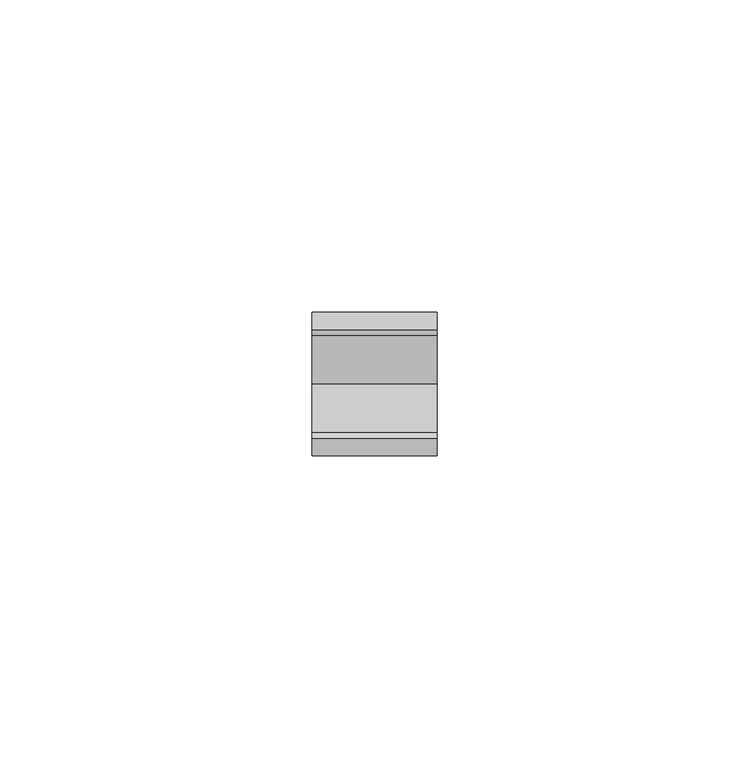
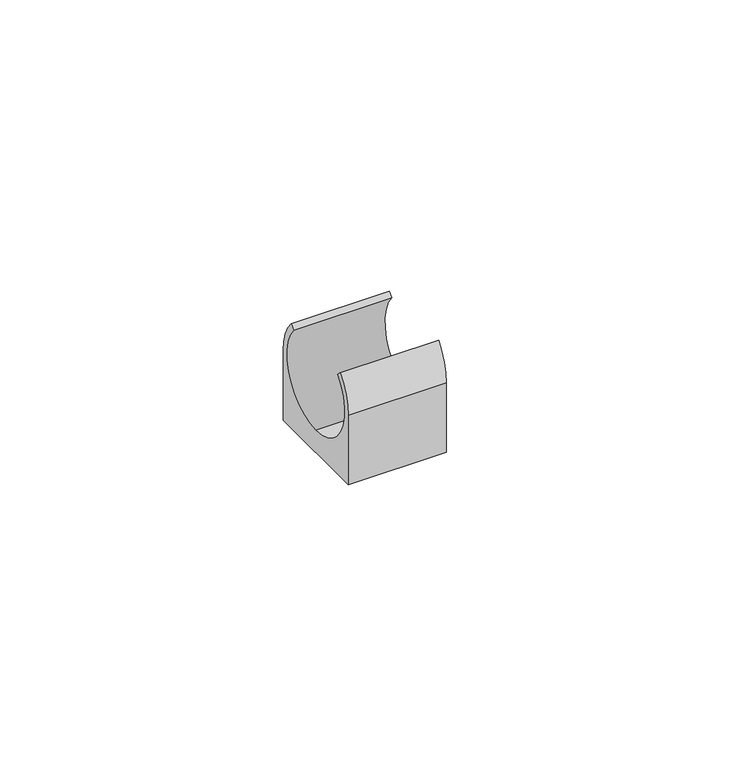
"""IFC4 building model written with IfcOpenShell, lengths in millimetres: cable carrier fitting geometry."""

import ifcopenshell
import ifcopenshell.guid

model = None  # the IFC model being written
_history = None  # IfcOwnerHistory: only IFC2X3 demands one
_inside = {}  # id of a spatial element -> (the spatial element, [elements in it])
_under = {}  # id of a project, library or spatial element -> (it, [spatial elements below it])
_declared = {}  # id of a project -> (the project, [libraries it declares])
_typed = {}  # id of a type object -> (the type object, [elements of that type])
_made_of = {}  # id of a material, layer set ... -> (it, [elements and type objects made of it])


def new_model(schema):
    """Start an empty IFC model of exactly this schema.

    Asked for "IFC4X3", IfcOpenShell would pick the latest addendum, in which some entities
    have other attributes; the version numbers below select the first issue.
    IFC2X3 requires an IfcOwnerHistory on every rooted entity: one is made here for all.
    """
    global model, _history
    if schema == "IFC4X3":
        model = ifcopenshell.file(schema_version=(4, 3, 0, 0))
    else:
        model = ifcopenshell.file(schema=schema)
    _inside.clear()
    _under.clear()
    _declared.clear()
    _typed.clear()
    _made_of.clear()
    _history = None
    if model.schema == "IFC2X3":
        org = make("IfcOrganization", Name="unknown")
        user = make(
            "IfcPersonAndOrganization",
            ThePerson=make("IfcPerson", FamilyName="unknown"),
            TheOrganization=org,
        )
        app = make(
            "IfcApplication",
            ApplicationDeveloper=org,
            Version="unknown",
            ApplicationFullName="unknown",
            ApplicationIdentifier="unknown",
        )
        _history = make(
            "IfcOwnerHistory",
            OwningUser=user,
            OwningApplication=app,
            ChangeAction="ADDED",
            CreationDate=0,
        )
    return model


def make(cls, **values):
    """One entity of the class cls with the attributes given. An attribute that is None is left unset."""
    return model.create_entity(
        cls, **{name: value for name, value in values.items() if value is not None}
    )


def rooted(cls, **values):
    """An entity with a GlobalId (a new one), such as an element, a storey or a relation."""
    return make(cls, GlobalId=ifcopenshell.guid.new(), OwnerHistory=_history, **values)


def si_unit(unit_type, name, prefix=None):
    """IfcSIUnit, for example si_unit("LENGTHUNIT", "METRE", prefix="MILLI")."""
    return make("IfcSIUnit", UnitType=unit_type, Prefix=prefix, Name=name)


def assignment(units):
    """IfcUnitAssignment: the units of a project."""
    return None if units is None else make("IfcUnitAssignment", Units=units)


def point(xyz):
    """IfcCartesianPoint."""
    return None if xyz is None else make("IfcCartesianPoint", Coordinates=xyz)


def direction(xyz):
    """IfcDirection."""
    return None if xyz is None else make("IfcDirection", DirectionRatios=xyz)


def frame(location, z_axis=None, x_axis=None):
    """IfcAxis2Placement3D, a coordinate frame: its origin and axes. An axis left out is left unset."""
    return make(
        "IfcAxis2Placement3D",
        Location=point(location),
        Axis=direction(z_axis),
        RefDirection=direction(x_axis),
    )


def frame_2d(location, x_axis=None):
    """IfcAxis2Placement2D, a coordinate frame in the plane: its origin and x axis."""
    return make(
        "IfcAxis2Placement2D", Location=point(location), RefDirection=direction(x_axis)
    )


def origin():
    """The frame at (0, 0, 0) with its axes left unset."""
    return frame((0.0, 0.0, 0.0))


def origin_2d():
    """The frame at (0, 0) in the plane with its x axis left unset."""
    return frame_2d((0.0, 0.0))


def place(relative_to, where):
    """IfcLocalPlacement: puts the frame where relative to a parent placement (None: the world)."""
    return make(
        "IfcLocalPlacement", PlacementRelTo=relative_to, RelativePlacement=where
    )


def context(
    kind, dimensions, precision=None, world=None, true_north=None, identifier=None
):
    """IfcGeometricRepresentationContext, for example the 3D "Model" context."""
    return make(
        "IfcGeometricRepresentationContext",
        ContextIdentifier=identifier,
        ContextType=kind,
        CoordinateSpaceDimension=dimensions,
        Precision=precision,
        WorldCoordinateSystem=world,
        TrueNorth=true_north,
    )


def project(units=None, contexts=None):
    """IfcProject with its units and contexts."""
    return rooted(
        "IfcProject",
        Name="project",
        RepresentationContexts=contexts,
        UnitsInContext=assignment(units),
    )


def spatial(cls, under=None, at=None, **own):
    """A site, building, storey or space (cls), placed at a placement, below another one or the project."""
    s = rooted(cls, ObjectPlacement=at, **own)
    if under is not None:
        _under.setdefault(under.id(), (under, []))[1].append(s)
    return s


def polyline(points):
    """IfcPolyline through the points."""
    return make("IfcPolyline", Points=[point(p) for p in points])


def circle_curve(where, radius):
    """IfcCircle in the frame where."""
    return make("IfcCircle", Position=where, Radius=radius)


def trimmed(basis, trim1, trim2, sense, master):
    """IfcTrimmedCurve: the piece of a basis curve between two trims."""
    return make(
        "IfcTrimmedCurve",
        BasisCurve=basis,
        Trim1=trim1,
        Trim2=trim2,
        SenseAgreement=sense,
        MasterRepresentation=master,
    )


def segment(curve, same_sense, transition):
    """IfcCompositeCurveSegment."""
    return make(
        "IfcCompositeCurveSegment",
        Transition=transition,
        SameSense=same_sense,
        ParentCurve=curve,
    )


def composite_curve(segments, self_intersect=None):
    """IfcCompositeCurve: segments joined end to end."""
    return make("IfcCompositeCurve", Segments=segments, SelfIntersect=self_intersect)


def outline(outer, holes=None, kind="AREA"):
    """IfcArbitraryClosedProfileDef: a profile drawn as a closed curve; with holes, ...WithVoids."""
    if holes is None:
        return make("IfcArbitraryClosedProfileDef", ProfileType=kind, OuterCurve=outer)
    return make(
        "IfcArbitraryProfileDefWithVoids",
        ProfileType=kind,
        OuterCurve=outer,
        InnerCurves=holes,
    )


def extrude(swept, where, along, depth):
    """IfcExtrudedAreaSolid: the profile swept, set in the frame where, extruded along a direction by depth."""
    return make(
        "IfcExtrudedAreaSolid",
        SweptArea=swept,
        Position=where,
        ExtrudedDirection=direction(along),
        Depth=depth,
    )


def shape(context_of_items, identifier, shape_type, items):
    """IfcShapeRepresentation: the items that make up one representation, for example the "Body"."""
    return make(
        "IfcShapeRepresentation",
        ContextOfItems=context_of_items,
        RepresentationIdentifier=identifier,
        RepresentationType=shape_type,
        Items=items,
    )


def source(mapping_origin, context_of_items, identifier, shape_type, items):
    """IfcRepresentationMap: a shape defined once, which mapped items show again and again."""
    return make(
        "IfcRepresentationMap",
        MappingOrigin=mapping_origin,
        MappedRepresentation=shape(context_of_items, identifier, shape_type, items),
    )


def transform(
    local_origin,
    x_axis=None,
    y_axis=None,
    z_axis=None,
    scale=None,
    scale2=None,
    scale3=None,
    uniform=True,
):
    """IfcCartesianTransformationOperator3D, or its non-uniform kind. x_axis, y_axis, z_axis: its Axis1, 2, 3."""
    if uniform:
        return make(
            "IfcCartesianTransformationOperator3D",
            Axis1=direction(x_axis),
            Axis2=direction(y_axis),
            LocalOrigin=point(local_origin),
            Scale=scale,
            Axis3=direction(z_axis),
        )
    return make(
        "IfcCartesianTransformationOperator3DnonUniform",
        Axis1=direction(x_axis),
        Axis2=direction(y_axis),
        LocalOrigin=point(local_origin),
        Scale=scale,
        Axis3=direction(z_axis),
        Scale2=scale2,
        Scale3=scale3,
    )


def mapped(mapping_source, mapping_target):
    """IfcMappedItem: shows the shape of a source again, moved by a transform."""
    return make(
        "IfcMappedItem", MappingSource=mapping_source, MappingTarget=mapping_target
    )


def made_of(thing, what):
    """Note that an element or type object is made of a material, layer set ...; save() writes the relation."""
    if what is not None:
        _made_of.setdefault(what.id(), (what, []))[1].append(thing)
    return thing


def element(
    cls,
    number,
    at=None,
    inside=None,
    cuts=None,
    type_object=None,
    material=None,
    context=None,
    identifier="Body",
    shape_type=None,
    held_by="IfcProductDefinitionShape",
    body=None,
    shapes=None,
    **own,
):
    """One element of the class cls, such as IfcWall. Its Tag is "e" and its number.

    at: its placement. inside: the storey or other place that contains it. cuts: it is an
    opening in that element (IfcRelVoidsElement). A single representation is given by context,
    identifier, shape_type and body (its items); several are given by shapes. held_by: the class
    of the entity that holds the representations. save() writes the other relations.
    """
    e = rooted(cls, Tag="e%d" % number, ObjectPlacement=at, **own)
    if body is not None:
        shapes = [shape(context, identifier, shape_type, body)]
    if shapes is not None:
        e.Representation = make(held_by, Representations=shapes)
    if inside is not None:
        _inside.setdefault(inside.id(), (inside, []))[1].append(e)
    if cuts is not None:
        rooted(
            "IfcRelVoidsElement", RelatingBuildingElement=cuts, RelatedOpeningElement=e
        )
    if type_object is not None:
        _typed.setdefault(type_object.id(), (type_object, []))[1].append(e)
    return made_of(e, material)


def aggregate(whole, parts):
    """IfcRelAggregates: a whole, such as a stair, and the parts it consists of."""
    return rooted("IfcRelAggregates", RelatingObject=whole, RelatedObjects=parts)


def save(model, path):
    """Write the relations noted so far, then the file.

    IfcRelAggregates (storeys below a building ...), IfcRelContainedInSpatialStructure (elements
    in a storey), IfcRelDefinesByType, IfcRelAssociatesMaterial and IfcRelDeclares: one each for
    every whole, place, type object, material and project.
    """
    for whole, parts in _under.values():
        aggregate(whole, parts)
    for where, things in _inside.values():
        rooted(
            "IfcRelContainedInSpatialStructure",
            RelatedElements=things,
            RelatingStructure=where,
        )
    for kind, things in _typed.values():
        rooted("IfcRelDefinesByType", RelatedObjects=things, RelatingType=kind)
    for what, things in _made_of.values():
        rooted("IfcRelAssociatesMaterial", RelatedObjects=things, RelatingMaterial=what)
    for by, libraries in _declared.values():
        rooted("IfcRelDeclares", RelatingContext=by, RelatedDefinitions=libraries)
    model.write(path)


def cable_carrier_fitting_f0880343(model_context):
    return source(origin(), model_context, "Body", "SweptSolid", [
        extrude(outline(composite_curve([segment(trimmed(circle_curve(origin_2d(), 10.2408834), [point((0.0, -10.2408834))], [point((7.8243712, 6.6071862))], True, "CARTESIAN"), True, "CONTINUOUS"), segment(polyline([(7.8243712, 6.6071862), (8.7175144, 7.5003295)]), True, "CONTINUOUS"), segment(trimmed(circle_curve(origin_2d(), 11.5), [point((8.7175144, 7.5003295))], [point((11.5, 0.0))], False, "CARTESIAN"), True, "CONTINUOUS"), segment(polyline([(11.5, 0.0), (11.5, -15.0), (-11.5, -15.0), (-11.5, 0.0)]), True, "CONTINUOUS"), segment(trimmed(circle_curve(origin_2d(), 11.5), [point((-11.5, 0.0))], [point((-8.7175144, 7.5003295))], False, "CARTESIAN"), True, "CONTINUOUS"), segment(polyline([(-8.7175144, 7.5003295), (-7.8243712, 6.6071862)]), True, "CONTINUOUS"), segment(trimmed(circle_curve(origin_2d(), 10.2408834), [point((-7.8243712, 6.6071862))], [point((0.0, -10.2408834))], True, "CARTESIAN"), True, "CONTINUOUS")], self_intersect=False)), frame((-10.0, 0.0, 0.0), z_axis=(1.0, 0.0, 0.0), x_axis=(0.0, 1.0, 0.0)), (0.0, 0.0, 1.0), 20.0),
    ])


if __name__ == "__main__":
    model = new_model("IFC4")
    model_context = context("Model", 3, world=origin())
    ifc_project = project(units=[si_unit("LENGTHUNIT", "METRE", prefix="MILLI")], contexts=[model_context])
    site = spatial("IfcSite", under=ifc_project)
    building = spatial("IfcBuilding", under=site)
    placement = place(None, origin())
    cable_carrier_fitting_shape = cable_carrier_fitting_f0880343(model_context)
    element("IfcCableCarrierFitting", 1, ObjectType="Крепеж-клипса_для_труб : Крепеж-клипса для трубы 20мм \"ЭКО\" (бук)", at=placement, inside=building, context=model_context, shape_type="MappedRepresentation", body=[
        mapped(cable_carrier_fitting_shape, transform((0.0, 0.0, 0.0), x_axis=(1.0, 0.0, 0.0), y_axis=(0.0, 1.0, 0.0), z_axis=(0.0, 0.0, 1.0))),
    ])
    save(model, "model.ifc")
